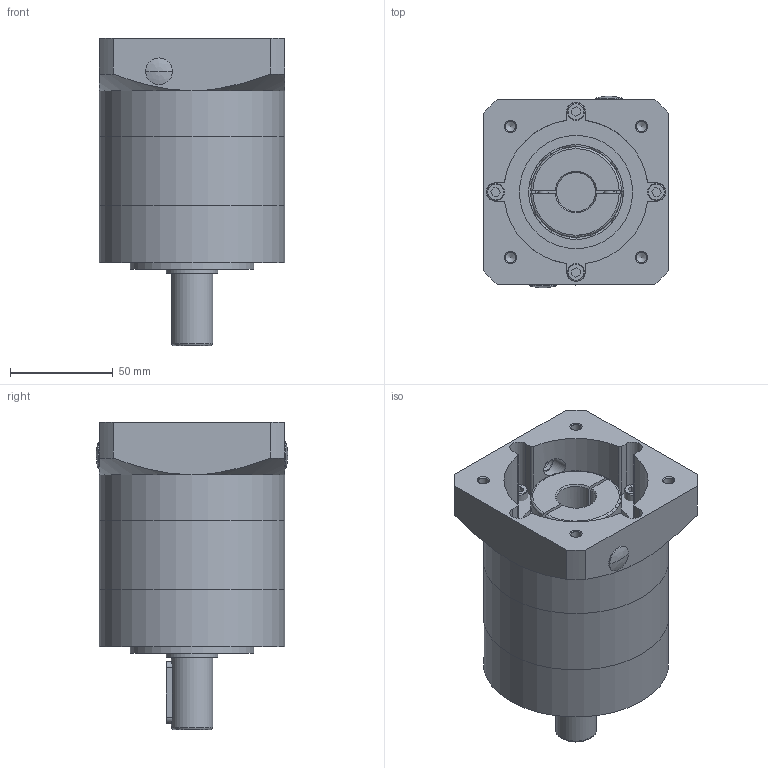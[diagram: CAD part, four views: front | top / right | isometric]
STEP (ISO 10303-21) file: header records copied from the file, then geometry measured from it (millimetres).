
FILE_DESCRIPTION(/* description */ (''),/* implementation_level */ '2;1');
FILE_NAME(/* name */ 'NE-090-L1(19-70-90-M6)(输出轴Φ20）.stp',/* time_stamp */ '2021-11-24T13:56:31+08:00',/* author */ (''),/* organization */ (''),/* preprocessor_version */ 'ST-DEVELOPER v16',/* originating_system */ 'SIEMENS PLM Software NX 10.0',/* authorisation */ '');
FILE_SCHEMA (('AP203_CONFIGURATION_CONTROLLED_3D_DESIGN_OF_MECHANICAL_PARTS_AND_ASSEMBLIES_MIM_LF { 1 0 10303 403 2 1 2}'));
Length unit declared in the file: millimetre
Products named in the file (1): 25BCED220fz1
Bounding box: 90 x 93 x 149.1 mm (x, y, z)
Volume: 556282.7 mm3; surface area: 157483.5 mm2
Topology: 20 solids, 20 shells, 865 faces, 2484 edges, 1658 vertices
Faces by surface type: plane 282, cylinder 223, sphere 160, torus 108, cone 58, bspline 34
Full cylindrical faces by diameter (mm): 4.2 x8, 5 x13, 5.5 x8, 9 x4, 10 x2, 19 x1, 20 x1, 25 x1, 28 x1, 37 x1, 38 x2, 39 x1, 48 x1, 52 x1, 55 x2, 60 x1, 62 x1, 65 x1, 72 x2, 90 x3
Entity records: 33785 total; most frequent: CARTESIAN_POINT 11930, ORIENTED_EDGE 4616, DIRECTION 4457, EDGE_CURVE 2308, AXIS2_PLACEMENT_3D 1952, VERTEX_POINT 1596, CIRCLE 1119, EDGE_LOOP 1087
